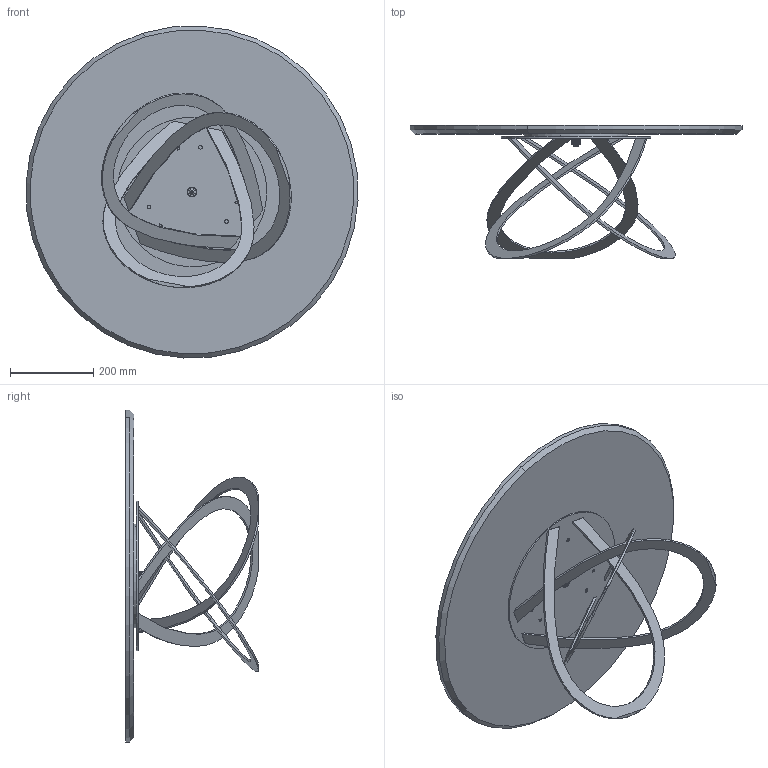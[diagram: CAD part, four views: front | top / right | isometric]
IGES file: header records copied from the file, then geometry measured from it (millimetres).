
Start section: SolidWorks IGES file using analytic representation for surfaces
Global section: file name: Y:\eforma\TECNICO\SOLIDWORKS\E-FORMA\2-TAVOLINI\FEBE LOW\02 parts\FL12M_Febe Low_d80xh32_Marble.IGS; native system: SolidWorks 2022; preprocessor: SolidWorks 2022; author: eforma.tech; date: 240806.105844; units: millimetre
Bounding box: 798.91 x 319.55 x 798.91 mm (x, y, z)
Volume: 11172738 mm3; surface area: 1610730.9 mm2
Topology: 11 solids, 11 shells, 261 faces, 602 edges, 361 vertices
Faces by surface type: revolution 143, plane 97, bspline 21
